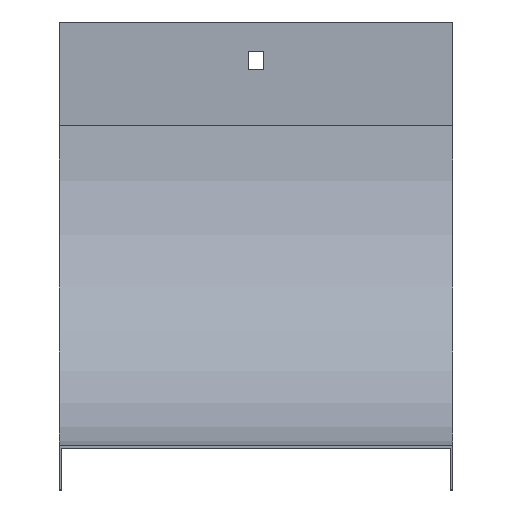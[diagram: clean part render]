
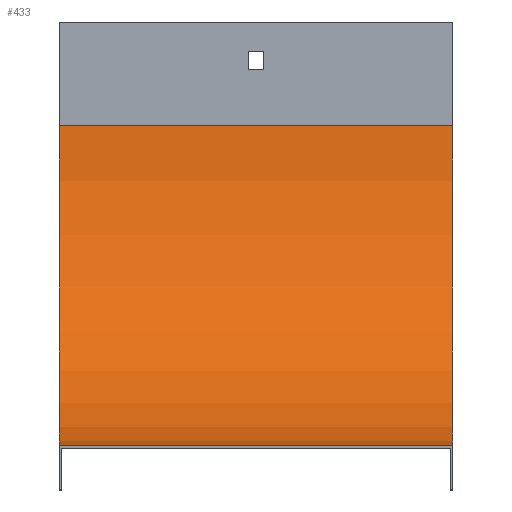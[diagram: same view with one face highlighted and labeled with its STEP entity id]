
A CAD part, top view. The second image highlights one B-rep face of the part: STEP entity #433.
In plain terms, the highlighted cylindrical face has radius 124 mm (diameter 248 mm), a partial arc.
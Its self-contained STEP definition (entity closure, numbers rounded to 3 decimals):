
#9 = DIRECTION ( 'NONE',  ( 0., 0., -1. ) ) ;
#42 = ORIENTED_EDGE ( 'NONE', *, *, #515, .T. ) ;
#60 = CIRCLE ( 'NONE', #73, 124. ) ;
#63 = VERTEX_POINT ( 'NONE', #99 ) ;
#73 = AXIS2_PLACEMENT_3D ( 'NONE', #730, #141, #393 ) ;
#99 = CARTESIAN_POINT ( 'NONE',  ( 76., 0., -40. ) ) ;
#118 = ORIENTED_EDGE ( 'NONE', *, *, #353, .F. ) ;
#123 = AXIS2_PLACEMENT_3D ( 'NONE', #727, #802, #9 ) ;
#137 = LINE ( 'NONE', #398, #598 ) ;
#141 = DIRECTION ( 'NONE',  ( -1., 0., 0. ) ) ;
#172 = VERTEX_POINT ( 'NONE', #568 ) ;
#217 = CARTESIAN_POINT ( 'NONE',  ( 76., 124., -40. ) ) ;
#218 = ORIENTED_EDGE ( 'NONE', *, *, #338, .F. ) ;
#334 = DIRECTION ( 'NONE',  ( -1., 0., 0. ) ) ;
#338 = EDGE_CURVE ( 'NONE', #526, #63, #489, .T. ) ;
#346 = CARTESIAN_POINT ( 'NONE',  ( -76., 124., -164. ) ) ;
#353 = EDGE_CURVE ( 'NONE', #63, #172, #137, .T. ) ;
#358 = VERTEX_POINT ( 'NONE', #346 ) ;
#391 = EDGE_CURVE ( 'NONE', #358, #172, #60, .T. ) ;
#393 = DIRECTION ( 'NONE',  ( 0., 0., -1. ) ) ;
#398 = CARTESIAN_POINT ( 'NONE',  ( 76., 0., -40. ) ) ;
#423 = VECTOR ( 'NONE', #615, 1000. ) ;
#433 = ADVANCED_FACE ( 'NONE', ( #737 ), #805, .F. ) ;
#434 = CARTESIAN_POINT ( 'NONE',  ( 76., 124., -164. ) ) ;
#478 = DIRECTION ( 'NONE',  ( -1., 0., 0. ) ) ;
#489 = CIRCLE ( 'NONE', #123, 124. ) ;
#515 = EDGE_CURVE ( 'NONE', #526, #358, #825, .T. ) ;
#526 = VERTEX_POINT ( 'NONE', #434 ) ;
#561 = EDGE_LOOP ( 'NONE', ( #799, #118, #218, #42 ) ) ;
#568 = CARTESIAN_POINT ( 'NONE',  ( -76., 0., -40. ) ) ;
#598 = VECTOR ( 'NONE', #334, 1000. ) ;
#615 = DIRECTION ( 'NONE',  ( -1., 0., 0. ) ) ;
#644 = AXIS2_PLACEMENT_3D ( 'NONE', #217, #478, #654 ) ;
#654 = DIRECTION ( 'NONE',  ( 0., 0., 1. ) ) ;
#727 = CARTESIAN_POINT ( 'NONE',  ( 76., 124., -40. ) ) ;
#730 = CARTESIAN_POINT ( 'NONE',  ( -76., 124., -40. ) ) ;
#737 = FACE_OUTER_BOUND ( 'NONE', #561, .T. ) ;
#799 = ORIENTED_EDGE ( 'NONE', *, *, #391, .T. ) ;
#802 = DIRECTION ( 'NONE',  ( -1., 0., 0. ) ) ;
#805 = CYLINDRICAL_SURFACE ( 'NONE', #644, 124. ) ;
#818 = CARTESIAN_POINT ( 'NONE',  ( 76., 124., -164. ) ) ;
#825 = LINE ( 'NONE', #818, #423 ) ;
